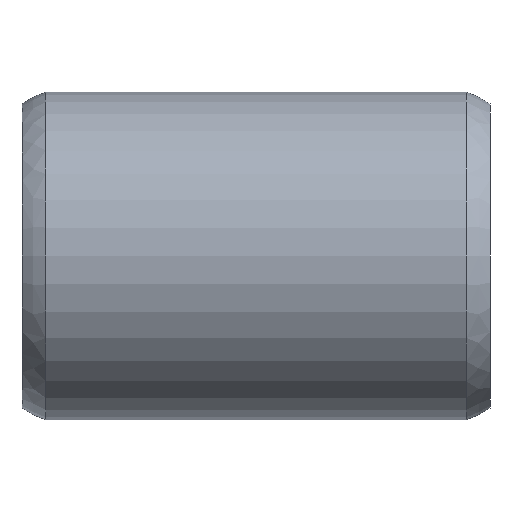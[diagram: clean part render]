
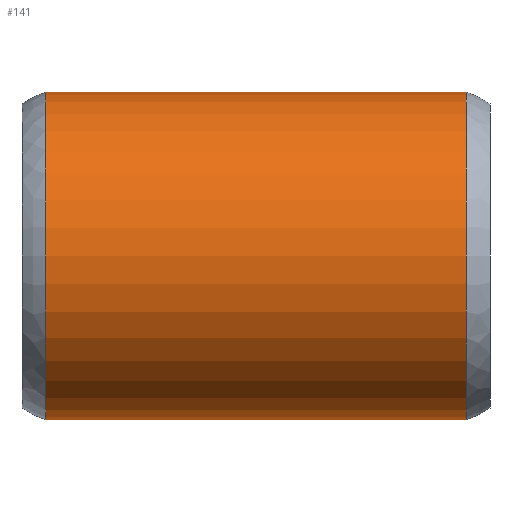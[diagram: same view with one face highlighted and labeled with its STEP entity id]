
A CAD part, front view. The second image highlights one B-rep face of the part: STEP entity #141.
In plain terms, the highlighted cylindrical face has radius 3.5 mm (diameter 7 mm), a full revolution.
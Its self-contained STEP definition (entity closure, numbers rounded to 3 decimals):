
#107=CARTESIAN_POINT('',(9.494,0.0,3.5));
#108=VERTEX_POINT('',#107);
#109=CARTESIAN_POINT('',(9.494,0.0,0.));
#110=DIRECTION('',(-1.0,0.0,0.0));
#111=DIRECTION('',(0.0,0.0,1.0));
#112=AXIS2_PLACEMENT_3D('',#109,#110,#111);
#113=CIRCLE('',#112,3.5);
#114=EDGE_CURVE('',#108,#108,#113,.T.);
#122=CARTESIAN_POINT('',(5.0,0.0,0.));
#123=DIRECTION('',(-1.0,0.0,0.0));
#124=DIRECTION('',(0.0,0.0,1.0));
#125=AXIS2_PLACEMENT_3D('',#122,#123,#124);
#126=CYLINDRICAL_SURFACE('',#125,3.5);
#127=CARTESIAN_POINT('',(0.506,0.0,3.5));
#128=VERTEX_POINT('',#127);
#129=CARTESIAN_POINT('',(0.506,0.0,0.));
#130=DIRECTION('',(-1.0,0.0,0.0));
#131=DIRECTION('',(0.0,0.0,1.0));
#132=AXIS2_PLACEMENT_3D('',#129,#130,#131);
#133=CIRCLE('',#132,3.5);
#134=EDGE_CURVE('',#128,#128,#133,.T.);
#135=ORIENTED_EDGE('',*,*,#134,.F.);
#136=EDGE_LOOP('',(#135));
#137=FACE_OUTER_BOUND('',#136,.T.);
#138=ORIENTED_EDGE('',*,*,#114,.T.);
#139=EDGE_LOOP('',(#138));
#140=FACE_BOUND('',#139,.T.);
#141=ADVANCED_FACE('',(#137,#140),#126,.T.);
